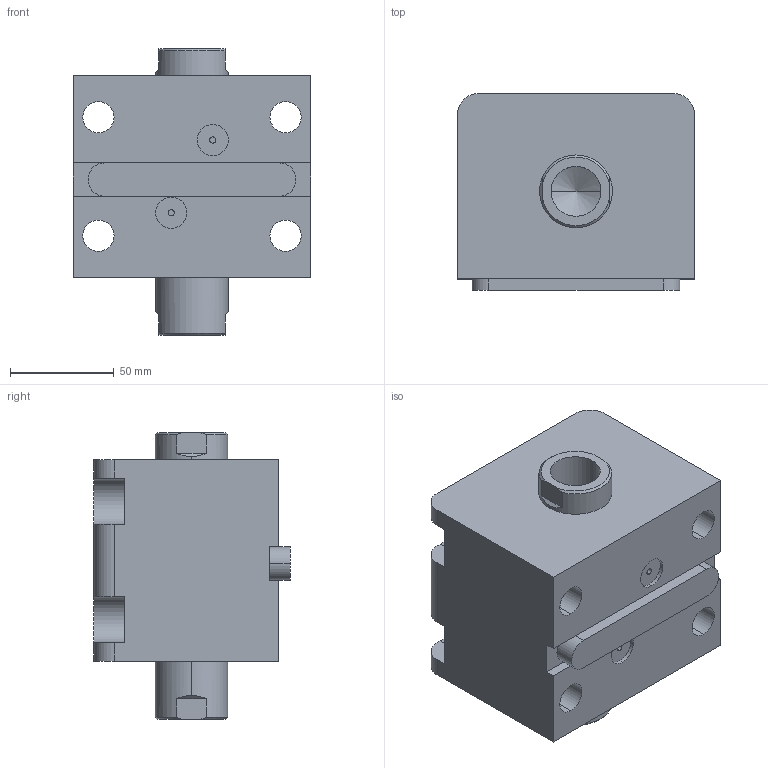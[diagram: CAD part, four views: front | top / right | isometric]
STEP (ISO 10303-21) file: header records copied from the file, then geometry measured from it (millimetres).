
FILE_DESCRIPTION (( 'STEP AP203' ), '1' );
FILE_NAME ('HTB-LWM63-15N.STEP', '2021-07-13T02:51:50', ( '微软用户' ), ( '微软中国' ), 'SwSTEP 2.0', 'SolidWorks 2012', '' );
FILE_SCHEMA (( 'CONFIG_CONTROL_DESIGN' ));
Length unit declared in the file: millimetre
Products named in the file (4): HTB-LWM63-15N; HTB-LWM63-瑩; HTB-LWM63-15N活塞杆; HTB-LWM63-15掛极
Assembly tree (3 placements, depth 2):
  HTB-LWM63-15N
    HTB-LWM63-15掛极
    HTB-LWM63-15N活塞杆
    HTB-LWM63-瑩
Bounding box: 114 x 94.5 x 138 mm (x, y, z)
Volume: 879558.3 mm3; surface area: 124802.6 mm2
Topology: 3 solids, 3 shells, 105 faces, 261 edges, 168 vertices
Faces by surface type: cylinder 45, plane 44, torus 8, cone 8
Entity records: 3571 total; most frequent: CARTESIAN_POINT 592, DIRECTION 573, ORIENTED_EDGE 514, EDGE_CURVE 257, AXIS2_PLACEMENT_3D 221, VERTEX_POINT 168, LINE 131, VECTOR 131
